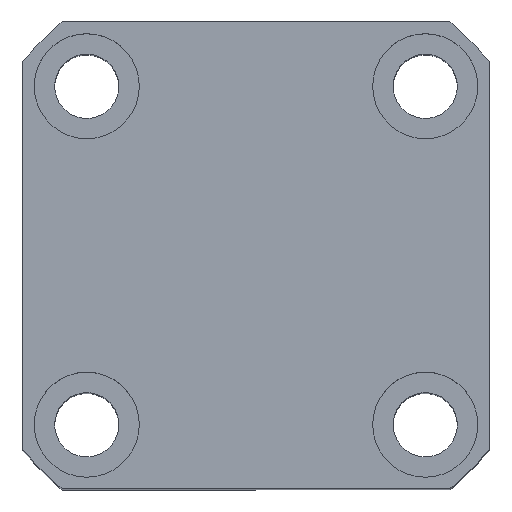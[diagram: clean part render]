
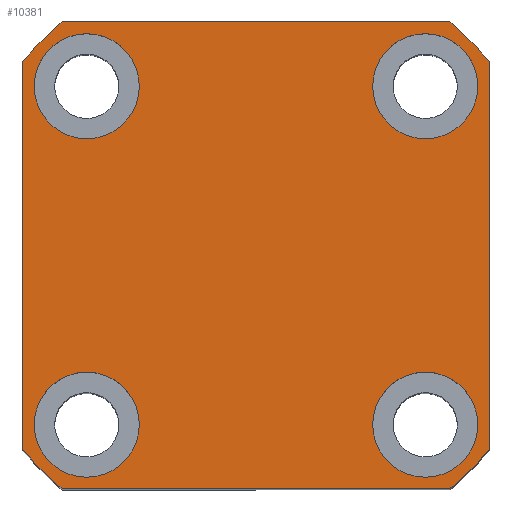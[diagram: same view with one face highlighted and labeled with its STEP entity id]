
A CAD part, top view. The second image highlights one B-rep face of the part: STEP entity #10381.
In plain terms, the highlighted planar face has unit normal (0, 0, 1).
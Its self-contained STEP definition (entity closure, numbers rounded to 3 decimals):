
#23 = VERTEX_POINT ( 'NONE', #12449 ) ;
#50 = ORIENTED_EDGE ( 'NONE', *, *, #7408, .F. ) ;
#81 = DIRECTION ( 'NONE',  ( 0., 1., 0. ) ) ;
#245 = FACE_OUTER_BOUND ( 'NONE', #4825, .T. ) ;
#463 = DIRECTION ( 'NONE',  ( 1., 0., 0. ) ) ;
#568 = VECTOR ( 'NONE', #10503, 1000. ) ;
#572 = VERTEX_POINT ( 'NONE', #11374 ) ;
#603 = CARTESIAN_POINT ( 'NONE',  ( 0., 0., 55. ) ) ;
#817 = DIRECTION ( 'NONE',  ( 0., 0., 1. ) ) ;
#916 = DIRECTION ( 'NONE',  ( 1., 0., 0. ) ) ;
#1005 = DIRECTION ( 'NONE',  ( 0., 0., 1. ) ) ;
#1088 = EDGE_LOOP ( 'NONE', ( #8078, #50 ) ) ;
#1114 = CARTESIAN_POINT ( 'NONE',  ( 20., 29., 55. ) ) ;
#1137 = CIRCLE ( 'NONE', #2952, 9. ) ;
#1345 = DIRECTION ( 'NONE',  ( 1., 0., 0. ) ) ;
#1503 = AXIS2_PLACEMENT_3D ( 'NONE', #8156, #9350, #2799 ) ;
#1583 = CIRCLE ( 'NONE', #9918, 9. ) ;
#1673 = VERTEX_POINT ( 'NONE', #8860 ) ;
#1798 = DIRECTION ( 'NONE',  ( 1., 0., 0. ) ) ;
#1857 = AXIS2_PLACEMENT_3D ( 'NONE', #10341, #2771, #5976 ) ;
#2000 = EDGE_CURVE ( 'NONE', #10769, #11564, #6779, .T. ) ;
#2098 = EDGE_CURVE ( 'NONE', #2466, #12018, #3345, .T. ) ;
#2159 = DIRECTION ( 'NONE',  ( 0., 0., 1. ) ) ;
#2353 = CARTESIAN_POINT ( 'NONE',  ( 38., -29., 55. ) ) ;
#2368 = ORIENTED_EDGE ( 'NONE', *, *, #2000, .T. ) ;
#2466 = VERTEX_POINT ( 'NONE', #5432 ) ;
#2653 = DIRECTION ( 'NONE',  ( 0., 0., 1. ) ) ;
#2749 = DIRECTION ( 'NONE',  ( 0., 0., 1. ) ) ;
#2771 = DIRECTION ( 'NONE',  ( 0., 0., 1. ) ) ;
#2778 = DIRECTION ( 'NONE',  ( 1., 0., 0. ) ) ;
#2799 = DIRECTION ( 'NONE',  ( 1., 0., 0. ) ) ;
#2814 = CIRCLE ( 'NONE', #8470, 52. ) ;
#2823 = CIRCLE ( 'NONE', #1503, 9. ) ;
#2864 = DIRECTION ( 'NONE',  ( 1., 0., 0. ) ) ;
#2952 = AXIS2_PLACEMENT_3D ( 'NONE', #13370, #5818, #1345 ) ;
#3088 = CARTESIAN_POINT ( 'NONE',  ( -38., -29., 55. ) ) ;
#3106 = VERTEX_POINT ( 'NONE', #2353 ) ;
#3148 = DIRECTION ( 'NONE',  ( 1., 0., 0. ) ) ;
#3212 = AXIS2_PLACEMENT_3D ( 'NONE', #9329, #3896, #2778 ) ;
#3345 = LINE ( 'NONE', #12090, #6266 ) ;
#3663 = CARTESIAN_POINT ( 'NONE',  ( 29., -29., 55. ) ) ;
#3693 = ORIENTED_EDGE ( 'NONE', *, *, #7126, .F. ) ;
#3896 = DIRECTION ( 'NONE',  ( 0., 0., 1. ) ) ;
#3954 = CARTESIAN_POINT ( 'NONE',  ( 0., 0., 55. ) ) ;
#4193 = DIRECTION ( 'NONE',  ( 0., 0., 1. ) ) ;
#4739 = EDGE_CURVE ( 'NONE', #572, #9030, #7068, .T. ) ;
#4825 = EDGE_LOOP ( 'NONE', ( #8287, #12807, #10834, #8689, #12652, #8033, #6058, #2368 ) ) ;
#4877 = VECTOR ( 'NONE', #3148, 1000. ) ;
#5070 = CARTESIAN_POINT ( 'NONE',  ( -33.226, -40., 55. ) ) ;
#5256 = DIRECTION ( 'NONE',  ( 1., 0., 0. ) ) ;
#5277 = DIRECTION ( 'NONE',  ( 1., 0., 0. ) ) ;
#5352 = AXIS2_PLACEMENT_3D ( 'NONE', #603, #7104, #8221 ) ;
#5432 = CARTESIAN_POINT ( 'NONE',  ( 40., -33.226, 55. ) ) ;
#5498 = CIRCLE ( 'NONE', #3212, 9. ) ;
#5593 = CIRCLE ( 'NONE', #1857, 9. ) ;
#5683 = VERTEX_POINT ( 'NONE', #5707 ) ;
#5707 = CARTESIAN_POINT ( 'NONE',  ( 33.226, 40., 55. ) ) ;
#5818 = DIRECTION ( 'NONE',  ( 0., 0., 1. ) ) ;
#5926 = EDGE_CURVE ( 'NONE', #1673, #13366, #9449, .T. ) ;
#5976 = DIRECTION ( 'NONE',  ( 1., 0., 0. ) ) ;
#6045 = CARTESIAN_POINT ( 'NONE',  ( -40., 33.226, 55. ) ) ;
#6058 = ORIENTED_EDGE ( 'NONE', *, *, #11864, .T. ) ;
#6266 = VECTOR ( 'NONE', #81, 1000. ) ;
#6287 = ORIENTED_EDGE ( 'NONE', *, *, #8951, .F. ) ;
#6291 = CARTESIAN_POINT ( 'NONE',  ( 33.226, -40., 55. ) ) ;
#6304 = CARTESIAN_POINT ( 'NONE',  ( 0., 0., 55. ) ) ;
#6730 = EDGE_CURVE ( 'NONE', #8400, #9987, #5498, .T. ) ;
#6779 = LINE ( 'NONE', #13036, #4877 ) ;
#6828 = AXIS2_PLACEMENT_3D ( 'NONE', #13839, #12639, #1798 ) ;
#7068 = LINE ( 'NONE', #6045, #568 ) ;
#7104 = DIRECTION ( 'NONE',  ( 0., 0., 1. ) ) ;
#7120 = CARTESIAN_POINT ( 'NONE',  ( -20., 29., 55. ) ) ;
#7126 = EDGE_CURVE ( 'NONE', #13366, #1673, #5593, .T. ) ;
#7408 = EDGE_CURVE ( 'NONE', #13436, #3106, #7646, .T. ) ;
#7454 = CARTESIAN_POINT ( 'NONE',  ( 20., -29., 55. ) ) ;
#7646 = CIRCLE ( 'NONE', #10264, 9. ) ;
#7769 = ORIENTED_EDGE ( 'NONE', *, *, #5926, .F. ) ;
#7789 = VECTOR ( 'NONE', #13681, 1000. ) ;
#7932 = EDGE_CURVE ( 'NONE', #3106, #13436, #1583, .T. ) ;
#8033 = ORIENTED_EDGE ( 'NONE', *, *, #4739, .T. ) ;
#8078 = ORIENTED_EDGE ( 'NONE', *, *, #7932, .F. ) ;
#8113 = CIRCLE ( 'NONE', #5352, 52. ) ;
#8138 = CARTESIAN_POINT ( 'NONE',  ( -33.226, 40., 55. ) ) ;
#8156 = CARTESIAN_POINT ( 'NONE',  ( 29., 29., 55. ) ) ;
#8221 = DIRECTION ( 'NONE',  ( 1., 0., 0. ) ) ;
#8287 = ORIENTED_EDGE ( 'NONE', *, *, #10267, .T. ) ;
#8390 = ORIENTED_EDGE ( 'NONE', *, *, #6730, .F. ) ;
#8400 = VERTEX_POINT ( 'NONE', #10755 ) ;
#8470 = AXIS2_PLACEMENT_3D ( 'NONE', #9896, #1005, #10831 ) ;
#8475 = EDGE_CURVE ( 'NONE', #23, #11335, #11563, .T. ) ;
#8689 = ORIENTED_EDGE ( 'NONE', *, *, #11401, .T. ) ;
#8786 = EDGE_CURVE ( 'NONE', #11335, #23, #1137, .T. ) ;
#8844 = EDGE_LOOP ( 'NONE', ( #8390, #6287 ) ) ;
#8860 = CARTESIAN_POINT ( 'NONE',  ( -38., 29., 55. ) ) ;
#8951 = EDGE_CURVE ( 'NONE', #9987, #8400, #2823, .T. ) ;
#9030 = VERTEX_POINT ( 'NONE', #12510 ) ;
#9143 = FACE_BOUND ( 'NONE', #14158, .T. ) ;
#9329 = CARTESIAN_POINT ( 'NONE',  ( 29., 29., 55. ) ) ;
#9350 = DIRECTION ( 'NONE',  ( 0., 0., 1. ) ) ;
#9449 = CIRCLE ( 'NONE', #13481, 9. ) ;
#9727 = EDGE_LOOP ( 'NONE', ( #3693, #7769 ) ) ;
#9896 = CARTESIAN_POINT ( 'NONE',  ( 0., 0., 55. ) ) ;
#9918 = AXIS2_PLACEMENT_3D ( 'NONE', #3663, #2653, #463 ) ;
#9987 = VERTEX_POINT ( 'NONE', #1114 ) ;
#10264 = AXIS2_PLACEMENT_3D ( 'NONE', #11902, #11989, #916 ) ;
#10267 = EDGE_CURVE ( 'NONE', #11564, #2466, #8113, .T. ) ;
#10341 = CARTESIAN_POINT ( 'NONE',  ( -29., 29., 55. ) ) ;
#10348 = FACE_BOUND ( 'NONE', #8844, .T. ) ;
#10381 = ADVANCED_FACE ( 'NONE', ( #12052, #9143, #13252, #10348, #245 ), #11309, .T. ) ;
#10503 = DIRECTION ( 'NONE',  ( 0., -1., 0. ) ) ;
#10572 = AXIS2_PLACEMENT_3D ( 'NONE', #10796, #2159, #5256 ) ;
#10755 = CARTESIAN_POINT ( 'NONE',  ( 38., 29., 55. ) ) ;
#10769 = VERTEX_POINT ( 'NONE', #5070 ) ;
#10796 = CARTESIAN_POINT ( 'NONE',  ( -29., -29., 55. ) ) ;
#10831 = DIRECTION ( 'NONE',  ( 1., 0., 0. ) ) ;
#10834 = ORIENTED_EDGE ( 'NONE', *, *, #11953, .T. ) ;
#11019 = CIRCLE ( 'NONE', #12136, 52. ) ;
#11129 = AXIS2_PLACEMENT_3D ( 'NONE', #3954, #2749, #12638 ) ;
#11186 = CIRCLE ( 'NONE', #11129, 52. ) ;
#11309 = PLANE ( 'NONE',  #6828 ) ;
#11335 = VERTEX_POINT ( 'NONE', #3088 ) ;
#11374 = CARTESIAN_POINT ( 'NONE',  ( -40., 33.226, 55. ) ) ;
#11401 = EDGE_CURVE ( 'NONE', #5683, #13240, #12913, .T. ) ;
#11563 = CIRCLE ( 'NONE', #10572, 9. ) ;
#11564 = VERTEX_POINT ( 'NONE', #6291 ) ;
#11864 = EDGE_CURVE ( 'NONE', #9030, #10769, #2814, .T. ) ;
#11902 = CARTESIAN_POINT ( 'NONE',  ( 29., -29., 55. ) ) ;
#11953 = EDGE_CURVE ( 'NONE', #12018, #5683, #11186, .T. ) ;
#11989 = DIRECTION ( 'NONE',  ( 0., 0., 1. ) ) ;
#12018 = VERTEX_POINT ( 'NONE', #12021 ) ;
#12021 = CARTESIAN_POINT ( 'NONE',  ( 40., 33.226, 55. ) ) ;
#12052 = FACE_BOUND ( 'NONE', #1088, .T. ) ;
#12090 = CARTESIAN_POINT ( 'NONE',  ( 40., 33.226, 55. ) ) ;
#12136 = AXIS2_PLACEMENT_3D ( 'NONE', #6304, #4193, #5277 ) ;
#12449 = CARTESIAN_POINT ( 'NONE',  ( -20., -29., 55. ) ) ;
#12510 = CARTESIAN_POINT ( 'NONE',  ( -40., -33.226, 55. ) ) ;
#12588 = ORIENTED_EDGE ( 'NONE', *, *, #8475, .F. ) ;
#12638 = DIRECTION ( 'NONE',  ( 1., 0., 0. ) ) ;
#12639 = DIRECTION ( 'NONE',  ( 0., 0., 1. ) ) ;
#12643 = EDGE_CURVE ( 'NONE', #13240, #572, #11019, .T. ) ;
#12652 = ORIENTED_EDGE ( 'NONE', *, *, #12643, .T. ) ;
#12807 = ORIENTED_EDGE ( 'NONE', *, *, #2098, .T. ) ;
#12913 = LINE ( 'NONE', #8138, #7789 ) ;
#13036 = CARTESIAN_POINT ( 'NONE',  ( -33.226, -40., 55. ) ) ;
#13240 = VERTEX_POINT ( 'NONE', #13435 ) ;
#13252 = FACE_BOUND ( 'NONE', #9727, .T. ) ;
#13366 = VERTEX_POINT ( 'NONE', #7120 ) ;
#13370 = CARTESIAN_POINT ( 'NONE',  ( -29., -29., 55. ) ) ;
#13435 = CARTESIAN_POINT ( 'NONE',  ( -33.226, 40., 55. ) ) ;
#13436 = VERTEX_POINT ( 'NONE', #7454 ) ;
#13481 = AXIS2_PLACEMENT_3D ( 'NONE', #13859, #817, #2864 ) ;
#13513 = ORIENTED_EDGE ( 'NONE', *, *, #8786, .F. ) ;
#13681 = DIRECTION ( 'NONE',  ( -1., 0., 0. ) ) ;
#13839 = CARTESIAN_POINT ( 'NONE',  ( 0., 0., 55. ) ) ;
#13859 = CARTESIAN_POINT ( 'NONE',  ( -29., 29., 55. ) ) ;
#14158 = EDGE_LOOP ( 'NONE', ( #12588, #13513 ) ) ;
